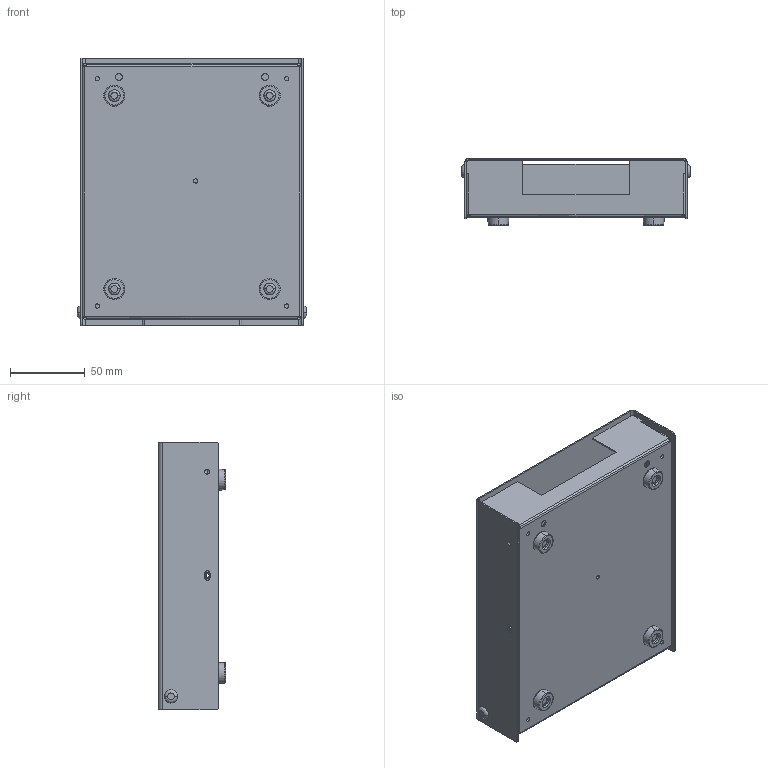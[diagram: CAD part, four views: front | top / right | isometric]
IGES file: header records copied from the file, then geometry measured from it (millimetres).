
Start section:  PTC IGES file: cd_scb-100.igs
Global section: file name: cd_scb-100.igs; native system: Pro/ENGINEER by Parametric Technology Corporation; preprocessor: 2006300; author: scarrasc; organization: Unknown; date: 20080922.124505; units: inch
Bounding box: 153.57 x 44.96 x 179.49 mm (x, y, z)
Surface area: 206023.9 mm2 (no closed solid volume)
Topology: 0 solids, 0 shells, 457 faces, 2168 edges, 2146 vertices
Faces by surface type: revolution 264, bspline 193
